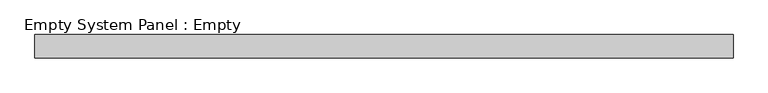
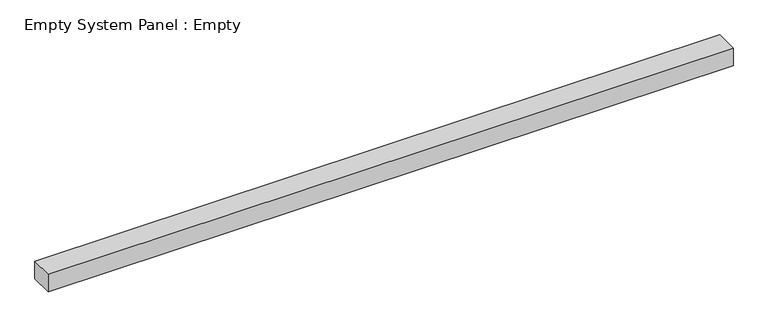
"""IFC4 building model written with IfcOpenShell, lengths in millimetres: plate geometry, Empty System Panel : Empty."""

import ifcopenshell
import ifcopenshell.guid

model = None  # the IFC model being written
_history = None  # IfcOwnerHistory: only IFC2X3 demands one
_inside = {}  # id of a spatial element -> (the spatial element, [elements in it])
_under = {}  # id of a project, library or spatial element -> (it, [spatial elements below it])
_declared = {}  # id of a project -> (the project, [libraries it declares])
_typed = {}  # id of a type object -> (the type object, [elements of that type])
_made_of = {}  # id of a material, layer set ... -> (it, [elements and type objects made of it])


def new_model(schema):
    """Start an empty IFC model of exactly this schema.

    Asked for "IFC4X3", IfcOpenShell would pick the latest addendum, in which some entities
    have other attributes; the version numbers below select the first issue.
    IFC2X3 requires an IfcOwnerHistory on every rooted entity: one is made here for all.
    """
    global model, _history
    if schema == "IFC4X3":
        model = ifcopenshell.file(schema_version=(4, 3, 0, 0))
    else:
        model = ifcopenshell.file(schema=schema)
    _inside.clear()
    _under.clear()
    _declared.clear()
    _typed.clear()
    _made_of.clear()
    _history = None
    if model.schema == "IFC2X3":
        org = make("IfcOrganization", Name="unknown")
        user = make(
            "IfcPersonAndOrganization",
            ThePerson=make("IfcPerson", FamilyName="unknown"),
            TheOrganization=org,
        )
        app = make(
            "IfcApplication",
            ApplicationDeveloper=org,
            Version="unknown",
            ApplicationFullName="unknown",
            ApplicationIdentifier="unknown",
        )
        _history = make(
            "IfcOwnerHistory",
            OwningUser=user,
            OwningApplication=app,
            ChangeAction="ADDED",
            CreationDate=0,
        )
    return model


def make(cls, **values):
    """One entity of the class cls with the attributes given. An attribute that is None is left unset."""
    return model.create_entity(
        cls, **{name: value for name, value in values.items() if value is not None}
    )


def rooted(cls, **values):
    """An entity with a GlobalId (a new one), such as an element, a storey or a relation."""
    return make(cls, GlobalId=ifcopenshell.guid.new(), OwnerHistory=_history, **values)


def si_unit(unit_type, name, prefix=None):
    """IfcSIUnit, for example si_unit("LENGTHUNIT", "METRE", prefix="MILLI")."""
    return make("IfcSIUnit", UnitType=unit_type, Prefix=prefix, Name=name)


def assignment(units):
    """IfcUnitAssignment: the units of a project."""
    return None if units is None else make("IfcUnitAssignment", Units=units)


def point(xyz):
    """IfcCartesianPoint."""
    return None if xyz is None else make("IfcCartesianPoint", Coordinates=xyz)


def direction(xyz):
    """IfcDirection."""
    return None if xyz is None else make("IfcDirection", DirectionRatios=xyz)


def frame(location, z_axis=None, x_axis=None):
    """IfcAxis2Placement3D, a coordinate frame: its origin and axes. An axis left out is left unset."""
    return make(
        "IfcAxis2Placement3D",
        Location=point(location),
        Axis=direction(z_axis),
        RefDirection=direction(x_axis),
    )


def origin():
    """The frame at (0, 0, 0) with its axes left unset."""
    return frame((0.0, 0.0, 0.0))


def origin_with_axes():
    """The frame at (0, 0, 0) with the z axis (0, 0, 1) and the x axis (1, 0, 0) written out."""
    return frame((0.0, 0.0, 0.0), z_axis=(0.0, 0.0, 1.0), x_axis=(1.0, 0.0, 0.0))


def place(relative_to, where):
    """IfcLocalPlacement: puts the frame where relative to a parent placement (None: the world)."""
    return make(
        "IfcLocalPlacement", PlacementRelTo=relative_to, RelativePlacement=where
    )


def context(
    kind, dimensions, precision=None, world=None, true_north=None, identifier=None
):
    """IfcGeometricRepresentationContext, for example the 3D "Model" context."""
    return make(
        "IfcGeometricRepresentationContext",
        ContextIdentifier=identifier,
        ContextType=kind,
        CoordinateSpaceDimension=dimensions,
        Precision=precision,
        WorldCoordinateSystem=world,
        TrueNorth=true_north,
    )


def project(units=None, contexts=None):
    """IfcProject with its units and contexts."""
    return rooted(
        "IfcProject",
        Name="project",
        RepresentationContexts=contexts,
        UnitsInContext=assignment(units),
    )


def spatial(cls, under=None, at=None, **own):
    """A site, building, storey or space (cls), placed at a placement, below another one or the project."""
    s = rooted(cls, ObjectPlacement=at, **own)
    if under is not None:
        _under.setdefault(under.id(), (under, []))[1].append(s)
    return s


def polyline(points):
    """IfcPolyline through the points."""
    return make("IfcPolyline", Points=[point(p) for p in points])


def outline(outer, holes=None, kind="AREA"):
    """IfcArbitraryClosedProfileDef: a profile drawn as a closed curve; with holes, ...WithVoids."""
    if holes is None:
        return make("IfcArbitraryClosedProfileDef", ProfileType=kind, OuterCurve=outer)
    return make(
        "IfcArbitraryProfileDefWithVoids",
        ProfileType=kind,
        OuterCurve=outer,
        InnerCurves=holes,
    )


def extrude(swept, where, along, depth):
    """IfcExtrudedAreaSolid: the profile swept, set in the frame where, extruded along a direction by depth."""
    return make(
        "IfcExtrudedAreaSolid",
        SweptArea=swept,
        Position=where,
        ExtrudedDirection=direction(along),
        Depth=depth,
    )


def shape(context_of_items, identifier, shape_type, items):
    """IfcShapeRepresentation: the items that make up one representation, for example the "Body"."""
    return make(
        "IfcShapeRepresentation",
        ContextOfItems=context_of_items,
        RepresentationIdentifier=identifier,
        RepresentationType=shape_type,
        Items=items,
    )


def source(mapping_origin, context_of_items, identifier, shape_type, items):
    """IfcRepresentationMap: a shape defined once, which mapped items show again and again."""
    return make(
        "IfcRepresentationMap",
        MappingOrigin=mapping_origin,
        MappedRepresentation=shape(context_of_items, identifier, shape_type, items),
    )


def transform(
    local_origin,
    x_axis=None,
    y_axis=None,
    z_axis=None,
    scale=None,
    scale2=None,
    scale3=None,
    uniform=True,
):
    """IfcCartesianTransformationOperator3D, or its non-uniform kind. x_axis, y_axis, z_axis: its Axis1, 2, 3."""
    if uniform:
        return make(
            "IfcCartesianTransformationOperator3D",
            Axis1=direction(x_axis),
            Axis2=direction(y_axis),
            LocalOrigin=point(local_origin),
            Scale=scale,
            Axis3=direction(z_axis),
        )
    return make(
        "IfcCartesianTransformationOperator3DnonUniform",
        Axis1=direction(x_axis),
        Axis2=direction(y_axis),
        LocalOrigin=point(local_origin),
        Scale=scale,
        Axis3=direction(z_axis),
        Scale2=scale2,
        Scale3=scale3,
    )


def mapped(mapping_source, mapping_target):
    """IfcMappedItem: shows the shape of a source again, moved by a transform."""
    return make(
        "IfcMappedItem", MappingSource=mapping_source, MappingTarget=mapping_target
    )


def made_of(thing, what):
    """Note that an element or type object is made of a material, layer set ...; save() writes the relation."""
    if what is not None:
        _made_of.setdefault(what.id(), (what, []))[1].append(thing)
    return thing


def element(
    cls,
    number,
    at=None,
    inside=None,
    cuts=None,
    type_object=None,
    material=None,
    context=None,
    identifier="Body",
    shape_type=None,
    held_by="IfcProductDefinitionShape",
    body=None,
    shapes=None,
    **own,
):
    """One element of the class cls, such as IfcWall. Its Tag is "e" and its number.

    at: its placement. inside: the storey or other place that contains it. cuts: it is an
    opening in that element (IfcRelVoidsElement). A single representation is given by context,
    identifier, shape_type and body (its items); several are given by shapes. held_by: the class
    of the entity that holds the representations. save() writes the other relations.
    """
    e = rooted(cls, Tag="e%d" % number, ObjectPlacement=at, **own)
    if body is not None:
        shapes = [shape(context, identifier, shape_type, body)]
    if shapes is not None:
        e.Representation = make(held_by, Representations=shapes)
    if inside is not None:
        _inside.setdefault(inside.id(), (inside, []))[1].append(e)
    if cuts is not None:
        rooted(
            "IfcRelVoidsElement", RelatingBuildingElement=cuts, RelatedOpeningElement=e
        )
    if type_object is not None:
        _typed.setdefault(type_object.id(), (type_object, []))[1].append(e)
    return made_of(e, material)


def aggregate(whole, parts):
    """IfcRelAggregates: a whole, such as a stair, and the parts it consists of."""
    return rooted("IfcRelAggregates", RelatingObject=whole, RelatedObjects=parts)


def save(model, path):
    """Write the relations noted so far, then the file.

    IfcRelAggregates (storeys below a building ...), IfcRelContainedInSpatialStructure (elements
    in a storey), IfcRelDefinesByType, IfcRelAssociatesMaterial and IfcRelDeclares: one each for
    every whole, place, type object, material and project.
    """
    for whole, parts in _under.values():
        aggregate(whole, parts)
    for where, things in _inside.values():
        rooted(
            "IfcRelContainedInSpatialStructure",
            RelatedElements=things,
            RelatingStructure=where,
        )
    for kind, things in _typed.values():
        rooted("IfcRelDefinesByType", RelatedObjects=things, RelatingType=kind)
    for what, things in _made_of.values():
        rooted("IfcRelAssociatesMaterial", RelatedObjects=things, RelatingMaterial=what)
    for by, libraries in _declared.values():
        rooted("IfcRelDeclares", RelatingContext=by, RelatedDefinitions=libraries)
    model.write(path)


def empty_system_panel_empty_03c9d606(model_context):
    return source(origin(), model_context, "Body", "SweptSolid", [
        extrude(outline(polyline([(1500.0, -50.0), (-1500.0, -50.0), (-1500.0, 50.0), (1500.0, 50.0), (1500.0, -50.0)])), origin_with_axes(), (0.0, 0.0, 1.0), 81.6152237),
    ])


if __name__ == "__main__":
    model = new_model("IFC4")
    model_context = context("Model", 3, world=origin())
    ifc_project = project(units=[si_unit("LENGTHUNIT", "METRE", prefix="MILLI")], contexts=[model_context])
    site = spatial("IfcSite", under=ifc_project)
    building = spatial("IfcBuilding", under=site)
    placement = place(None, origin())
    empty_system_panel_empty_shape = empty_system_panel_empty_03c9d606(model_context)
    element("IfcPlate", 1, ObjectType="Empty System Panel : Empty", at=placement, inside=building, context=model_context, shape_type="MappedRepresentation", body=[
        mapped(empty_system_panel_empty_shape, transform((0.0, 0.0, 0.0), x_axis=(1.0, 0.0, 0.0), y_axis=(0.0, 1.0, 0.0), z_axis=(0.0, 0.0, 1.0))),
    ])
    save(model, "model.ifc")
